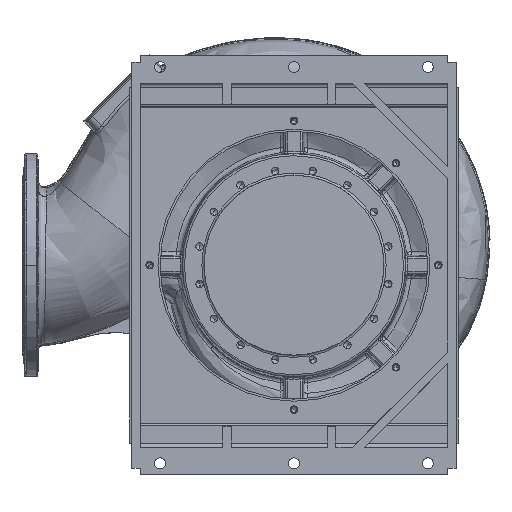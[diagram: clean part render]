
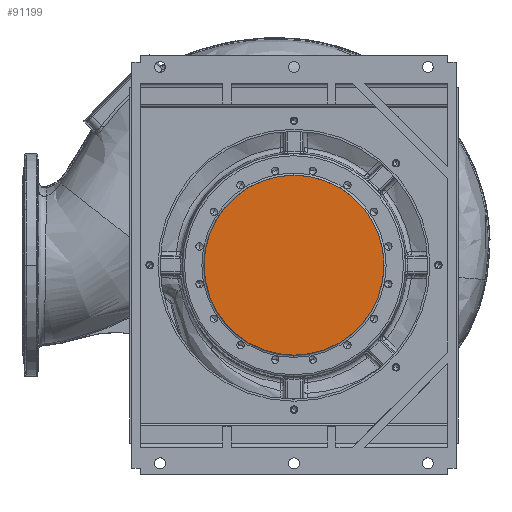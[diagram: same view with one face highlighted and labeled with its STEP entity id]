
A CAD part, front view. The second image highlights one B-rep face of the part: STEP entity #91199.
In plain terms, the highlighted planar face has unit normal (0, -1, 0).
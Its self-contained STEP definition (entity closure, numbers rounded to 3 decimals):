
#9613 = CARTESIAN_POINT ( 'NONE',  ( 0., -578., -215. ) ) ;
#22248 = DIRECTION ( 'NONE',  ( 0., -1., 0. ) ) ;
#22935 = CARTESIAN_POINT ( 'NONE',  ( 0., -578., 0. ) ) ;
#25843 = EDGE_LOOP ( 'NONE', ( #134585, #29746 ) ) ;
#27522 = CARTESIAN_POINT ( 'NONE',  ( 0., -578., 215. ) ) ;
#29746 = ORIENTED_EDGE ( 'NONE', *, *, #37185, .T. ) ;
#31823 = AXIS2_PLACEMENT_3D ( 'NONE', #69186, #151906, #81201 ) ;
#34841 = DIRECTION ( 'NONE',  ( 0., 0., 1. ) ) ;
#34858 = CIRCLE ( 'NONE', #88881, 215. ) ;
#37185 = EDGE_CURVE ( 'NONE', #117561, #112492, #34858, .T. ) ;
#69186 = CARTESIAN_POINT ( 'NONE',  ( -215., -578., 0. ) ) ;
#74826 = FACE_OUTER_BOUND ( 'NONE', #25843, .T. ) ;
#81201 = DIRECTION ( 'NONE',  ( 0., 0., 1. ) ) ;
#88881 = AXIS2_PLACEMENT_3D ( 'NONE', #93321, #22248, #105277 ) ;
#91199 = ADVANCED_FACE ( 'NONE', ( #74826 ), #104678, .T. ) ;
#93321 = CARTESIAN_POINT ( 'NONE',  ( 0., -578., 0. ) ) ;
#104678 = PLANE ( 'NONE',  #31823 ) ;
#105277 = DIRECTION ( 'NONE',  ( 0., 0., 1. ) ) ;
#105982 = DIRECTION ( 'NONE',  ( 0., -1., 0. ) ) ;
#111081 = EDGE_CURVE ( 'NONE', #112492, #117561, #114158, .T. ) ;
#112492 = VERTEX_POINT ( 'NONE', #9613 ) ;
#114158 = CIRCLE ( 'NONE', #146679, 215. ) ;
#117561 = VERTEX_POINT ( 'NONE', #27522 ) ;
#134585 = ORIENTED_EDGE ( 'NONE', *, *, #111081, .T. ) ;
#146679 = AXIS2_PLACEMENT_3D ( 'NONE', #22935, #105982, #34841 ) ;
#151906 = DIRECTION ( 'NONE',  ( 0., -1., 0. ) ) ;
